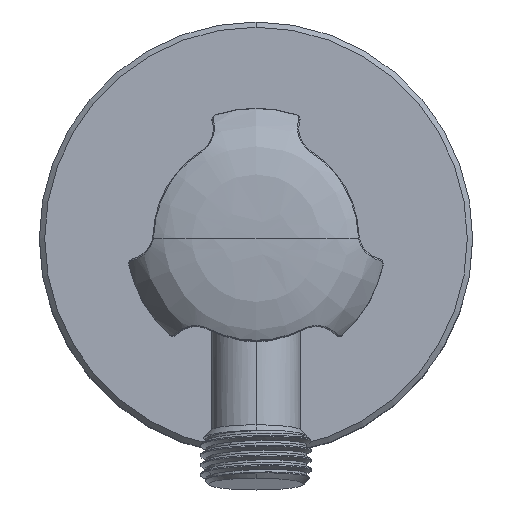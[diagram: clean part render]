
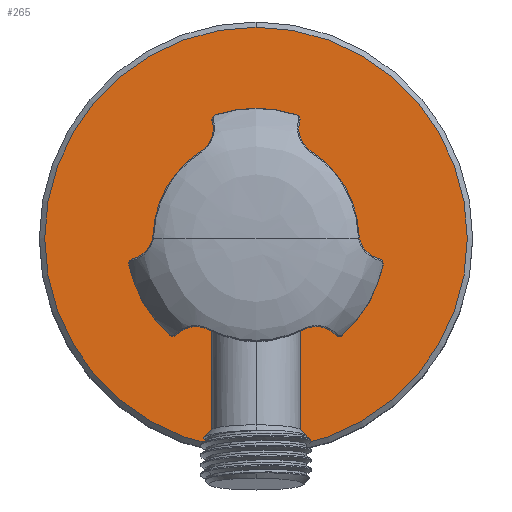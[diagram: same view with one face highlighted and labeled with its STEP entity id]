
A CAD part, top view. The second image highlights one B-rep face of the part: STEP entity #265.
In plain terms, the highlighted planar face has unit normal (0, 0.035, 0.999).
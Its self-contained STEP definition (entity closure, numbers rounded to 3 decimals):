
#146=CARTESIAN_POINT('',(0.,0.14,128.998));
#147=DIRECTION('',(0.,0.035,0.999));
#148=DIRECTION('',(0.,0.999,-0.035));
#149=AXIS2_PLACEMENT_3D('',#146,#147,#148);
#151=CARTESIAN_POINT('',(0.,0.14,128.998));
#152=DIRECTION('',(0.,0.035,0.999));
#153=DIRECTION('',(0.,-0.999,0.035));
#154=AXIS2_PLACEMENT_3D('',#151,#152,#153);
#190=CARTESIAN_POINT('',(0.,39.116,127.636));
#191=CARTESIAN_POINT('',(0.,-38.837,
130.359));
#192=VERTEX_POINT('',#190);
#193=VERTEX_POINT('',#191);
#255=CARTESIAN_POINT('',(0.,0.14,128.998));
#256=DIRECTION('',(0.,-0.035,-0.999));
#257=DIRECTION('',(0.,-0.999,0.035));
#258=AXIS2_PLACEMENT_3D('',#255,#256,#257);
#259=PLANE('',#258);
#261=ORIENTED_EDGE('',*,*,#260,.F.);
#262=ORIENTED_EDGE('',*,*,#245,.F.);
#263=EDGE_LOOP('',(#261,#262));
#264=FACE_OUTER_BOUND('',#263,.F.);
#265=ADVANCED_FACE('',(#264),#259,.F.);
#150=CIRCLE('',#149,39.);
#155=CIRCLE('',#154,39.);
#245=EDGE_CURVE('',#193,#192,#155,.T.);
#260=EDGE_CURVE('',#192,#193,#150,.T.);
